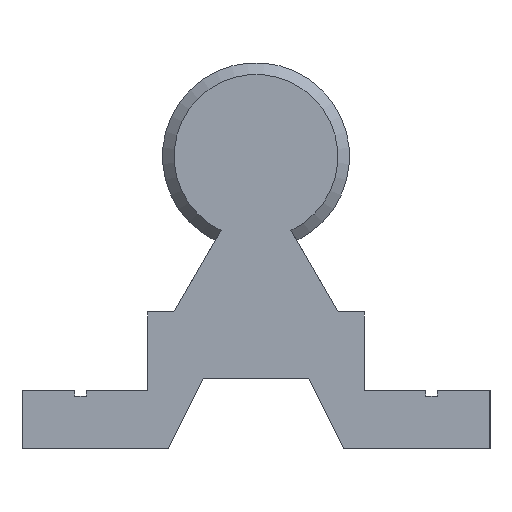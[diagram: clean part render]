
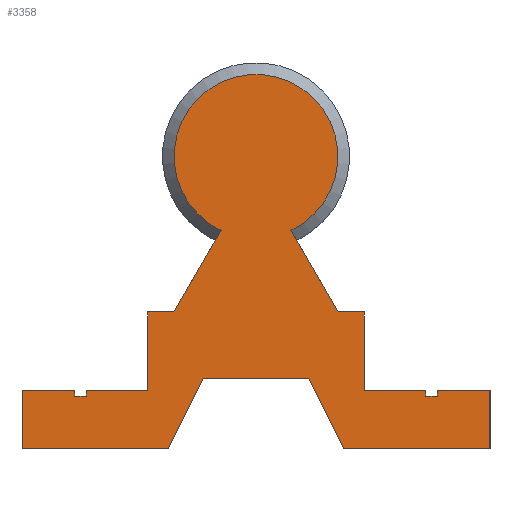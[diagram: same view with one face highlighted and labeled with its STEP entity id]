
A CAD part, left-side view. The second image highlights one B-rep face of the part: STEP entity #3358.
In plain terms, the highlighted planar face has unit normal (-1, 0, 0).
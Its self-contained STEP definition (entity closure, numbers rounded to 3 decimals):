
#72=LINE('',#4957,#362);
#73=LINE('',#4959,#363);
#74=LINE('',#4961,#364);
#75=LINE('',#4963,#365);
#76=LINE('',#4965,#366);
#77=LINE('',#4967,#367);
#78=LINE('',#4969,#368);
#79=LINE('',#4971,#369);
#80=LINE('',#4973,#370);
#81=LINE('',#4975,#371);
#82=LINE('',#4977,#372);
#83=LINE('',#4979,#373);
#84=LINE('',#4981,#374);
#85=LINE('',#4983,#375);
#86=LINE('',#4985,#376);
#87=LINE('',#4987,#377);
#88=LINE('',#4989,#378);
#89=LINE('',#4991,#379);
#90=LINE('',#4993,#380);
#91=LINE('',#4995,#381);
#92=LINE('',#4997,#382);
#93=LINE('',#4999,#383);
#94=LINE('',#5000,#384);
#362=VECTOR('',#3915,10.);
#363=VECTOR('',#3916,10.);
#364=VECTOR('',#3917,10.);
#365=VECTOR('',#3918,10.);
#366=VECTOR('',#3919,10.);
#367=VECTOR('',#3920,10.);
#368=VECTOR('',#3921,10.);
#369=VECTOR('',#3922,10.);
#370=VECTOR('',#3923,10.);
#371=VECTOR('',#3924,10.);
#372=VECTOR('',#3925,10.);
#373=VECTOR('',#3926,10.);
#374=VECTOR('',#3927,10.);
#375=VECTOR('',#3928,10.);
#376=VECTOR('',#3929,10.);
#377=VECTOR('',#3930,10.);
#378=VECTOR('',#3931,10.);
#379=VECTOR('',#3932,10.);
#380=VECTOR('',#3933,10.);
#381=VECTOR('',#3934,10.);
#382=VECTOR('',#3935,10.);
#383=VECTOR('',#3936,10.);
#384=VECTOR('',#3937,10.);
#652=PLANE('',#3536);
#762=FACE_OUTER_BOUND('',#918,.T.);
#918=EDGE_LOOP('',(#2259,#2260,#2261,#2262,#2263,#2264,#2265,#2266,#2267,
#2268,#2269,#2270,#2271,#2272,#2273,#2274,#2275,#2276,#2277,#2278,#2279,
#2280,#2281,#2282));
#1101=CIRCLE('',#3534,7.);
#1354=VERTEX_POINT('',#4944);
#1355=VERTEX_POINT('',#4948);
#1357=VERTEX_POINT('',#4956);
#1358=VERTEX_POINT('',#4958);
#1359=VERTEX_POINT('',#4960);
#1360=VERTEX_POINT('',#4962);
#1361=VERTEX_POINT('',#4964);
#1362=VERTEX_POINT('',#4966);
#1363=VERTEX_POINT('',#4968);
#1364=VERTEX_POINT('',#4970);
#1365=VERTEX_POINT('',#4972);
#1366=VERTEX_POINT('',#4974);
#1367=VERTEX_POINT('',#4976);
#1368=VERTEX_POINT('',#4978);
#1369=VERTEX_POINT('',#4980);
#1370=VERTEX_POINT('',#4982);
#1371=VERTEX_POINT('',#4984);
#1372=VERTEX_POINT('',#4986);
#1373=VERTEX_POINT('',#4988);
#1374=VERTEX_POINT('',#4990);
#1375=VERTEX_POINT('',#4992);
#1376=VERTEX_POINT('',#4994);
#1377=VERTEX_POINT('',#4996);
#1378=VERTEX_POINT('',#4998);
#1714=EDGE_CURVE('',#1354,#1355,#1101,.T.);
#1717=EDGE_CURVE('',#1355,#1357,#72,.T.);
#1718=EDGE_CURVE('',#1358,#1354,#73,.T.);
#1719=EDGE_CURVE('',#1359,#1358,#74,.T.);
#1720=EDGE_CURVE('',#1360,#1359,#75,.T.);
#1721=EDGE_CURVE('',#1361,#1360,#76,.T.);
#1722=EDGE_CURVE('',#1362,#1361,#77,.T.);
#1723=EDGE_CURVE('',#1363,#1362,#78,.T.);
#1724=EDGE_CURVE('',#1364,#1363,#79,.T.);
#1725=EDGE_CURVE('',#1365,#1364,#80,.T.);
#1726=EDGE_CURVE('',#1366,#1365,#81,.T.);
#1727=EDGE_CURVE('',#1367,#1366,#82,.T.);
#1728=EDGE_CURVE('',#1368,#1367,#83,.T.);
#1729=EDGE_CURVE('',#1369,#1368,#84,.T.);
#1730=EDGE_CURVE('',#1370,#1369,#85,.T.);
#1731=EDGE_CURVE('',#1371,#1370,#86,.T.);
#1732=EDGE_CURVE('',#1372,#1371,#87,.T.);
#1733=EDGE_CURVE('',#1373,#1372,#88,.T.);
#1734=EDGE_CURVE('',#1374,#1373,#89,.T.);
#1735=EDGE_CURVE('',#1375,#1374,#90,.T.);
#1736=EDGE_CURVE('',#1376,#1375,#91,.T.);
#1737=EDGE_CURVE('',#1377,#1376,#92,.T.);
#1738=EDGE_CURVE('',#1378,#1377,#93,.T.);
#1739=EDGE_CURVE('',#1357,#1378,#94,.T.);
#2259=ORIENTED_EDGE('',*,*,#1717,.F.);
#2260=ORIENTED_EDGE('',*,*,#1714,.F.);
#2261=ORIENTED_EDGE('',*,*,#1718,.F.);
#2262=ORIENTED_EDGE('',*,*,#1719,.F.);
#2263=ORIENTED_EDGE('',*,*,#1720,.F.);
#2264=ORIENTED_EDGE('',*,*,#1721,.F.);
#2265=ORIENTED_EDGE('',*,*,#1722,.F.);
#2266=ORIENTED_EDGE('',*,*,#1723,.F.);
#2267=ORIENTED_EDGE('',*,*,#1724,.F.);
#2268=ORIENTED_EDGE('',*,*,#1725,.F.);
#2269=ORIENTED_EDGE('',*,*,#1726,.F.);
#2270=ORIENTED_EDGE('',*,*,#1727,.F.);
#2271=ORIENTED_EDGE('',*,*,#1728,.F.);
#2272=ORIENTED_EDGE('',*,*,#1729,.F.);
#2273=ORIENTED_EDGE('',*,*,#1730,.F.);
#2274=ORIENTED_EDGE('',*,*,#1731,.F.);
#2275=ORIENTED_EDGE('',*,*,#1732,.F.);
#2276=ORIENTED_EDGE('',*,*,#1733,.F.);
#2277=ORIENTED_EDGE('',*,*,#1734,.F.);
#2278=ORIENTED_EDGE('',*,*,#1735,.F.);
#2279=ORIENTED_EDGE('',*,*,#1736,.F.);
#2280=ORIENTED_EDGE('',*,*,#1737,.F.);
#2281=ORIENTED_EDGE('',*,*,#1738,.F.);
#2282=ORIENTED_EDGE('',*,*,#1739,.F.);
#3358=ADVANCED_FACE('',(#762),#652,.F.);
#3534=AXIS2_PLACEMENT_3D('',#4949,#3909,#3910);
#3536=AXIS2_PLACEMENT_3D('',#4955,#3913,#3914);
#3909=DIRECTION('center_axis',(1.,0.,0.));
#3910=DIRECTION('ref_axis',(0.,1.,0.));
#3913=DIRECTION('center_axis',(1.,0.,0.));
#3914=DIRECTION('ref_axis',(0.,0.,-1.));
#3915=DIRECTION('',(0.,-0.5,-0.866));
#3916=DIRECTION('',(0.,-0.5,0.866));
#3917=DIRECTION('',(0.,-1.,0.));
#3918=DIRECTION('',(0.,0.,1.));
#3919=DIRECTION('',(0.,-1.,0.));
#3920=DIRECTION('',(0.,0.,1.));
#3921=DIRECTION('',(0.,-1.,0.));
#3922=DIRECTION('',(0.,0.,-1.));
#3923=DIRECTION('',(0.,-1.,0.));
#3924=DIRECTION('',(0.,0.,1.));
#3925=DIRECTION('',(0.,1.,0.));
#3926=DIRECTION('',(0.,0.447,-0.894));
#3927=DIRECTION('',(0.,1.,0.));
#3928=DIRECTION('',(0.,0.447,0.894));
#3929=DIRECTION('',(0.,1.,0.));
#3930=DIRECTION('',(0.,0.,-1.));
#3931=DIRECTION('',(0.,-1.,0.));
#3932=DIRECTION('',(0.,0.,1.));
#3933=DIRECTION('',(0.,-1.,0.));
#3934=DIRECTION('',(0.,0.,-1.));
#3935=DIRECTION('',(0.,-1.,0.));
#3936=DIRECTION('',(0.,0.,-1.));
#3937=DIRECTION('',(0.,-1.,0.));
#4944=CARTESIAN_POINT('',(0.,2.986,18.669));
#4948=CARTESIAN_POINT('',(0.,-2.986,18.669));
#4949=CARTESIAN_POINT('Origin',(0.,0.,25.));
#4955=CARTESIAN_POINT('Origin',(0.,0.,25.));
#4956=CARTESIAN_POINT('',(0.,-7.009,11.7));
#4957=CARTESIAN_POINT('',(0.,-1.492,21.255));
#4958=CARTESIAN_POINT('',(0.,7.009,11.7));
#4959=CARTESIAN_POINT('',(0.,3.253,18.205));
#4960=CARTESIAN_POINT('',(0.,9.25,11.7));
#4961=CARTESIAN_POINT('',(0.,9.25,11.7));
#4962=CARTESIAN_POINT('',(0.,9.25,5.));
#4963=CARTESIAN_POINT('',(0.,9.25,5.));
#4964=CARTESIAN_POINT('',(0.,14.5,5.));
#4965=CARTESIAN_POINT('',(0.,14.5,5.));
#4966=CARTESIAN_POINT('',(0.,14.5,4.5));
#4967=CARTESIAN_POINT('',(0.,14.5,4.5));
#4968=CARTESIAN_POINT('',(0.,15.5,4.5));
#4969=CARTESIAN_POINT('',(0.,15.5,4.5));
#4970=CARTESIAN_POINT('',(0.,15.5,5.));
#4971=CARTESIAN_POINT('',(0.,15.5,5.));
#4972=CARTESIAN_POINT('',(0.,20.,5.));
#4973=CARTESIAN_POINT('',(0.,20.,5.));
#4974=CARTESIAN_POINT('',(0.,20.,0.));
#4975=CARTESIAN_POINT('',(0.,20.,0.));
#4976=CARTESIAN_POINT('',(0.,7.5,0.));
#4977=CARTESIAN_POINT('',(0.,7.5,0.));
#4978=CARTESIAN_POINT('',(0.,4.5,6.));
#4979=CARTESIAN_POINT('',(0.,4.5,6.));
#4980=CARTESIAN_POINT('',(0.,-4.5,6.));
#4981=CARTESIAN_POINT('',(0.,-4.5,6.));
#4982=CARTESIAN_POINT('',(0.,-7.5,0.));
#4983=CARTESIAN_POINT('',(0.,-7.5,0.));
#4984=CARTESIAN_POINT('',(0.,-20.,0.));
#4985=CARTESIAN_POINT('',(0.,-20.,0.));
#4986=CARTESIAN_POINT('',(0.,-20.,5.));
#4987=CARTESIAN_POINT('',(0.,-20.,5.));
#4988=CARTESIAN_POINT('',(0.,-15.5,5.));
#4989=CARTESIAN_POINT('',(0.,-15.5,5.));
#4990=CARTESIAN_POINT('',(0.,-15.5,4.5));
#4991=CARTESIAN_POINT('',(0.,-15.5,4.5));
#4992=CARTESIAN_POINT('',(0.,-14.5,4.5));
#4993=CARTESIAN_POINT('',(0.,-14.5,4.5));
#4994=CARTESIAN_POINT('',(0.,-14.5,5.));
#4995=CARTESIAN_POINT('',(0.,-14.5,5.));
#4996=CARTESIAN_POINT('',(0.,-9.25,5.));
#4997=CARTESIAN_POINT('',(0.,-9.25,5.));
#4998=CARTESIAN_POINT('',(0.,-9.25,11.7));
#4999=CARTESIAN_POINT('',(0.,-9.25,11.7));
#5000=CARTESIAN_POINT('',(0.,-7.009,11.7));
